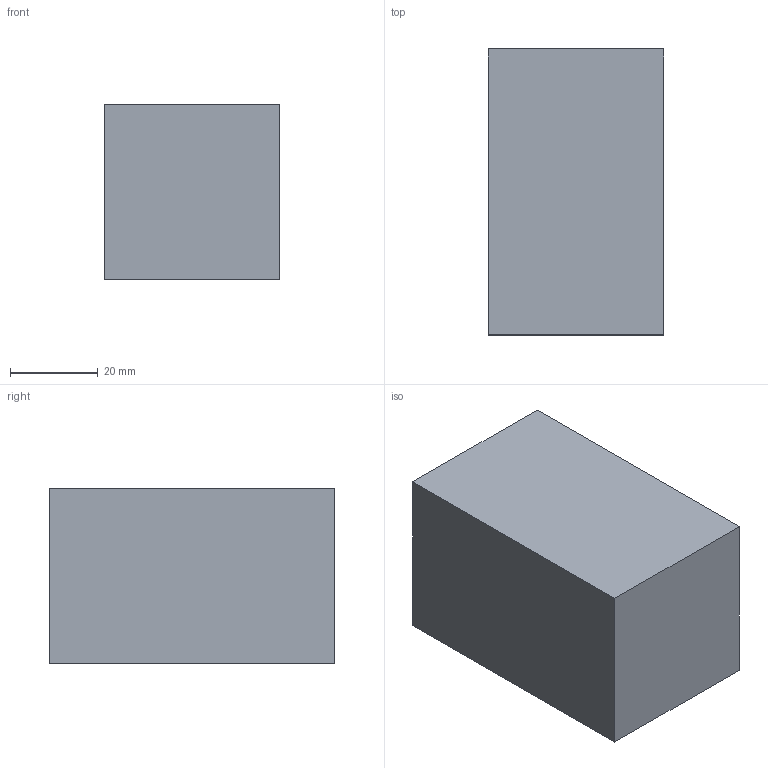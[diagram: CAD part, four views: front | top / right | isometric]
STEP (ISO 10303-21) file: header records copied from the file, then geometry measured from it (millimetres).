
FILE_DESCRIPTION (( 'STEP AP214' ), '1' );
FILE_NAME ('2.13-1020.STEP', '2022-02-08T14:38:55', ( '' ), ( '' ), 'SwSTEP 2.0', 'SolidWorks 2020', '' );
FILE_SCHEMA (( 'AUTOMOTIVE_DESIGN' ));
Length unit declared in the file: millimetre
Products named in the file (1): 2.13-1020
Bounding box: 40 x 65 x 40 mm (x, y, z)
Volume: 94781.4 mm3; surface area: 15791.7 mm2
Topology: 1 solids, 1 shells, 34 faces, 70 edges, 39 vertices
Faces by surface type: cone 10, cylinder 10, plane 8, torus 6
Entity records: 932 total; most frequent: DIRECTION 174, CARTESIAN_POINT 142, ORIENTED_EDGE 136, AXIS2_PLACEMENT_3D 71, EDGE_CURVE 68, VERTEX_POINT 39, EDGE_LOOP 37, CIRCLE 36
